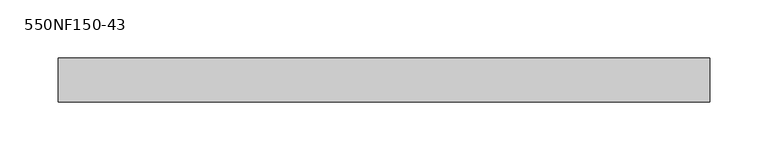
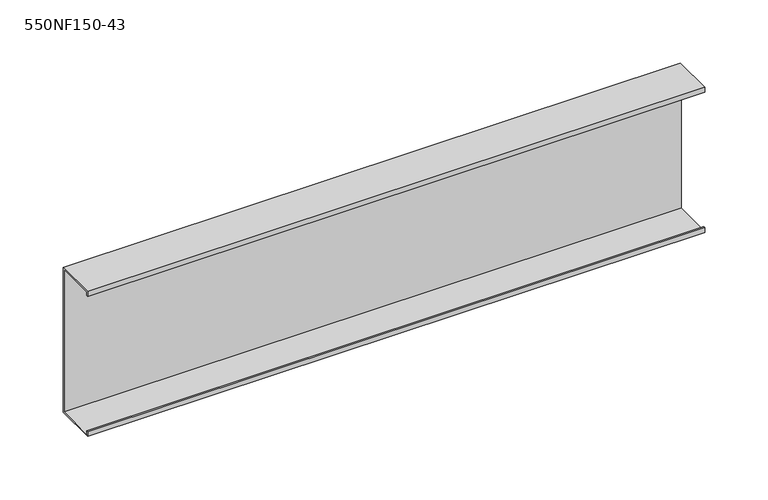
"""IFC4 building model written with IfcOpenShell, lengths in millimetres: beam geometry, BIMSF-SSMA-S : 550NF150-43."""

from ifc_helpers import new_model, si_unit, frame, origin, place, context, project, spatial, polyline, outline, extrude, source, transform, mapped, element, save


def beam_550nf150_43_6c8bec73(model_context):
    return source(origin(), model_context, "Body", "SweptSolid", [
        extrude(outline(polyline([(19.05, 69.85), (19.05, -69.85), (-19.05, -69.85), (-19.05, -65.0748), (-17.9003158, -65.0748), (-17.9003158, -68.7003158), (17.9003158, -68.7003158), (17.9003158, 68.7003158), (-17.9003158, 68.7003158), (-17.9003158, 65.0748), (-19.05, 65.0748), (-19.05, 69.85), (19.05, 69.85)])), frame((-280.7146532, 0.0, 0.0), z_axis=(1.0, 0.0, 0.0), x_axis=(0.0, 1.0, 0.0)), (0.0, 0.0, 1.0), 561.4293064),
    ])


if __name__ == "__main__":
    model = new_model("IFC4")
    model_context = context("Model", 3, world=origin())
    ifc_project = project(units=[si_unit("LENGTHUNIT", "METRE", prefix="MILLI")], contexts=[model_context])
    site = spatial("IfcSite", under=ifc_project)
    building = spatial("IfcBuilding", under=site)
    placement = place(None, origin())
    beam_550nf150_43_shape = beam_550nf150_43_6c8bec73(model_context)
    element("IfcBeam", 1, ObjectType="BIMSF-SSMA-S : 550NF150-43", at=placement, inside=building, context=model_context, shape_type="MappedRepresentation", body=[
        mapped(beam_550nf150_43_shape, transform((0.0, 0.0, 0.0), x_axis=(1.0, 0.0, 0.0), y_axis=(0.0, 1.0, 0.0), z_axis=(0.0, 0.0, 1.0))),
    ])
    save(model, "model.ifc")
